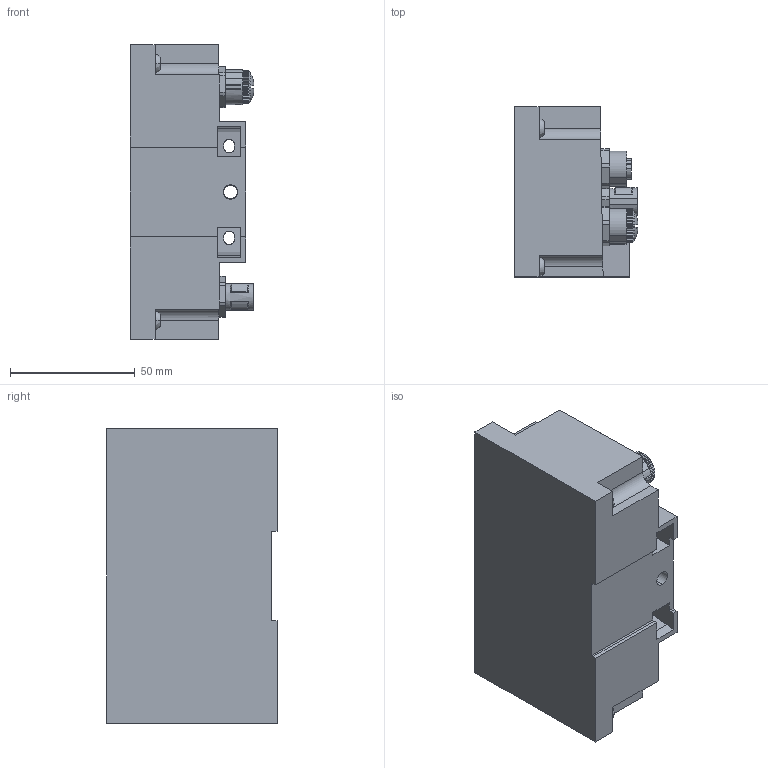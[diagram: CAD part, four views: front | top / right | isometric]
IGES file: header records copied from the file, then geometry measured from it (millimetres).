
Start section: --------------------------------------------------- Robert Bosch GmbH Postfach 300220 70442 Stuttgart Model-Name:      "P580AEED1010A00" Drawing-Name:    "&dwg_name" Format:          DIN "&format" Alle Rechte bei ROBERT BOSCH GmbH, auch fuer den Fall von Schutzrechtsanmeldungen. Jede Verfuegungs- befugnis, wie Kopier- und Weitergabe, bei uns. THIS DRAWING IS THE EXCLUSIVE PROPERTY OF ROBERT BOSCH 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
Global section: file name: p580aeed1010a00.igs; native system: Creo Parametric by PTC Inc.; preprocessor: 2020044; author: PDH2HC; organization: Unknown; date: 20210917.165335; units: millimetre
Bounding box: 49.57 x 68.1 x 118 mm (x, y, z)
Surface area: 35479 mm2 (no closed solid volume)
Topology: 0 solids, 0 shells, 353 faces, 1944 edges, 1936 vertices
Faces by surface type: bspline 233, revolution 120
